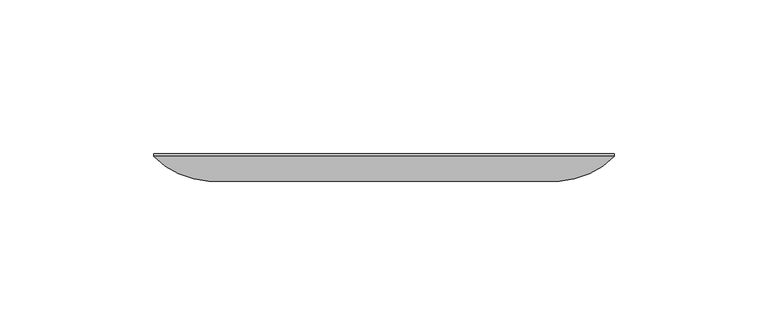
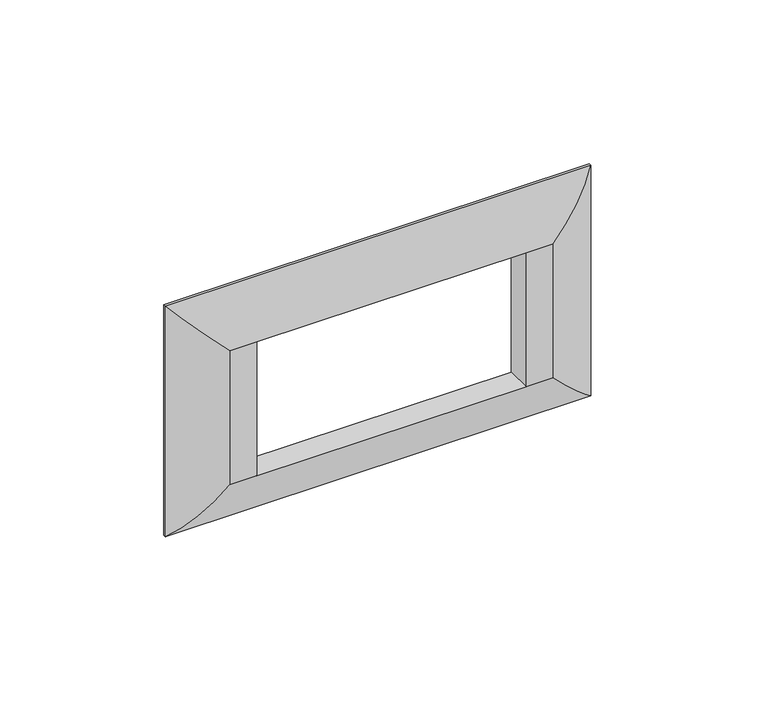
"""IFC4 building model written with IfcOpenShell, lengths in millimetres: proxy geometry, КНС_РамкаДляМонтажаЭУИBravaВКоробкиPDD-N120_DKC : 4 модуля."""

from ifc_helpers import new_model, si_unit, frame, origin, place, context, project, spatial, ellipse_curve, source, transform, mapped, element, save
from ifc_brep_helpers import plane_surface, cylinder_surface, advanced_brep


def electrical_fixtures_76e51104(model_context):
    return source(origin(), model_context, "Body", "AdvancedBrep", [
        advanced_brep(
        [(75.0, -0.8, 42.9768143), (57.0, -9.0, 24.9768143), (57.0, -9.0, -24.9768143), (75.0, -0.8, -42.9768143), (75.0, 0.0, -42.9768143), (75.0, 0.0, 42.9768143), (47.5, 0.0, -24.9768143), (-47.5, 0.0, -24.9768143), (-47.5, -9.0, -24.9768143), (47.5, -9.0, -24.9768143), (-57.0, -9.0, -24.9768143), (-75.0, -0.8, -42.9768143), (-75.0, 0.0, -42.9768143), (-57.0, -9.0, 24.9768143), (-75.0, -0.8, 42.9768143), (-75.0, 0.0, 42.9768143), (-47.5, 0.0, 24.9768143), (47.5, 0.0, 24.9768143), (47.5, -9.0, 24.9768143), (-47.5, -9.0, 24.9768143)],
        [
            (0, 1, ellipse_curve(frame((55.2227605, 18.757355, 23.1995748), z_axis=(0.7071067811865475, 0.0, -0.7071067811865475), x_axis=(0.7071067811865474, 0.0, 0.7071067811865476)), 39.3352091, 27.8141931)),
            (1, 2),
            (2, 3, ellipse_curve(frame((55.2227605, 18.757355, -23.1995748), z_axis=(0.7071067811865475, 0.0, 0.7071067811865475), x_axis=(-0.7071067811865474, 0.0, 0.7071067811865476)), 39.3352091, 27.8141931)),
            (3, 0),
            (3, 4),
            (4, 5),
            (5, 0),
            (6, 7),
            (7, 8),
            (8, 9),
            (9, 6),
            (2, 9),
            (8, 10),
            (10, 11, ellipse_curve(frame((-55.2227605, 18.757355, -23.1995748), z_axis=(0.7071067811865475, 0.0, -0.7071067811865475), x_axis=(0.7071067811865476, 0.0, 0.7071067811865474)), 39.3352091, 27.8141931)),
            (11, 3),
            (11, 12),
            (12, 4),
            (10, 13),
            (13, 14, ellipse_curve(frame((-55.2227605, 18.757355, 23.1995748), z_axis=(-0.7071067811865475, 0.0, -0.7071067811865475), x_axis=(0.7071067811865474, 0.0, -0.7071067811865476)), 39.3352091, 27.8141931)),
            (14, 11),
            (14, 15),
            (15, 12),
            (16, 17),
            (17, 18),
            (18, 19),
            (19, 16),
            (0, 14),
            (13, 19),
            (18, 1),
            (5, 15),
            (6, 17),
            (16, 7),
            (8, 19),
            (18, 9),
        ],
        [
            cylinder_surface(frame((55.2227605, 18.757355, 42.9768143), z_axis=(0.0, 0.0, 1.0), x_axis=(1.0, 0.0, 0.0)), 27.8141931),
            plane_surface(frame((75.0, -0.8, 42.9768143), z_axis=(1.0, 0.0, 0.0), x_axis=(0.0, 0.0, -1.0))),
            plane_surface(frame((57.0, 0.0, -24.9768143), z_axis=(0.0, 0.0, 1.0), x_axis=(-1.0, 0.0, 0.0))),
            cylinder_surface(frame((75.0, 18.757355, -23.1995748), z_axis=(1.0, 0.0, 0.0), x_axis=(0.0, 0.0, -1.0)), 27.8141931),
            plane_surface(frame((75.0, -0.8, -42.9768143), z_axis=(0.0, 0.0, -1.0), x_axis=(-1.0, 0.0, 0.0))),
            cylinder_surface(frame((-55.2227605, 18.757355, -42.9768143), z_axis=(0.0, 0.0, -1.0), x_axis=(-1.0, 0.0, 0.0)), 27.8141931),
            plane_surface(frame((-75.0, -0.8, -42.9768143), z_axis=(-1.0, 0.0, 0.0), x_axis=(0.0, 0.0, 1.0))),
            plane_surface(frame((-57.0, 0.0, 24.9768143), z_axis=(0.0, 0.0, -1.0), x_axis=(1.0, 0.0, 0.0))),
            cylinder_surface(frame((-75.0, 18.757355, 23.1995748), z_axis=(-1.0, 0.0, 0.0), x_axis=(0.0, 0.0, 1.0)), 27.8141931),
            plane_surface(frame((-75.0, -0.8, 42.9768143), z_axis=(0.0, 0.0, 1.0), x_axis=(1.0, 0.0, 0.0))),
            plane_surface(frame((-75.0, 0.0, 42.9768143), z_axis=(0.0, 1.0, 0.0), x_axis=(1.0, 0.0, 0.0))),
            plane_surface(frame((-57.0, -9.0, 24.9768143), z_axis=(0.0, -1.0, 0.0), x_axis=(0.0, 0.0, -1.0))),
            plane_surface(frame((-47.5, -9.0, -24.9768143), z_axis=(1.0, 0.0, 0.0), x_axis=(0.0, 1.0, 0.0))),
            plane_surface(frame((47.5, -9.0, 24.9768143), z_axis=(-1.0, 0.0, 0.0), x_axis=(0.0, 1.0, 0.0))),
        ],
        [
            (0, [[1, 2, 3, 4]]),
            (1, [[-4, 5, 6, 7]]),
            (2, [[8, 9, 10, 11]]),
            (3, [[-3, 12, -10, 13, 14, 15]]),
            (4, [[-5, -15, 16, 17]]),
            (5, [[-14, 18, 19, 20]]),
            (6, [[-16, -20, 21, 22]]),
            (7, [[23, 24, 25, 26]]),
            (8, [[-1, 27, -19, 28, -25, 29]]),
            (9, [[-7, 30, -21, -27]]),
            (10, [[-6, -17, -22, -30], [-8, 31, -23, 32]]),
            (11, [[33, -28, -18, -13]]),
            (11, [[34, -12, -2, -29]]),
            (12, [[-33, -9, -32, -26]]),
            (13, [[-34, -24, -31, -11]]),
        ],
    ),
    ])


if __name__ == "__main__":
    model = new_model("IFC4")
    model_context = context("Model", 3, world=origin())
    ifc_project = project(units=[si_unit("LENGTHUNIT", "METRE", prefix="MILLI")], contexts=[model_context])
    site = spatial("IfcSite", under=ifc_project)
    building = spatial("IfcBuilding", under=site)
    placement = place(None, origin())
    electrical_fixtures_shape = electrical_fixtures_76e51104(model_context)
    element("IfcBuildingElementProxy", 1, Name="КНС_РамкаДляМонтажаЭУИBravaВКоробкиPDD-N120_DKC : 4 модуля", ObjectType="КНС_РамкаДляМонтажаЭУИBravaВКоробкиPDD-N120_DKC : 4 модуля", at=placement, inside=building, context=model_context, shape_type="MappedRepresentation", body=[
        mapped(electrical_fixtures_shape, transform((0.0, 0.0, 0.0), x_axis=(1.0, 0.0, 0.0), y_axis=(0.0, 1.0, 0.0), z_axis=(0.0, 0.0, 1.0))),
    ])
    save(model, "model.ifc")
